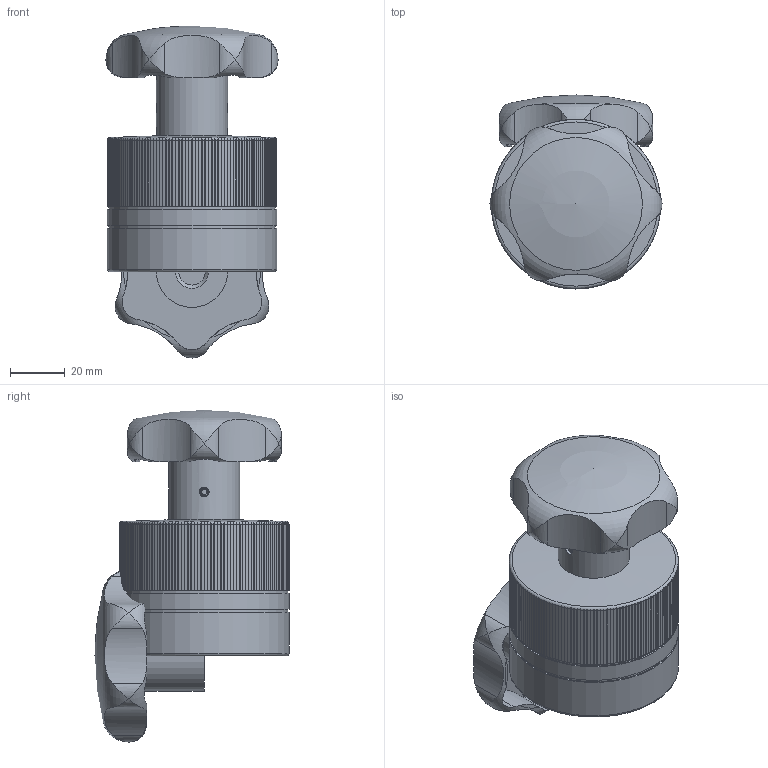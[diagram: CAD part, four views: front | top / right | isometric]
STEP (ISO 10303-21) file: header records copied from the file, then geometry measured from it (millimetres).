
FILE_DESCRIPTION( ( 'Unknown' ), '1' );
FILE_NAME( 'F:/JAKOB-STEP+IGES-Dateien/STEP-Dateien/MCA-S/MCA-S 60 - M10.stp', 'Unknown', ( 'Unknown' ), ( 'Unknown' ), 'XStep 1.0', 'Unknown', ' ' );
FILE_SCHEMA( ( 'CONFIG_CONTROL_DESIGN' ) );
Length unit declared in the file: millimetre
Products named in the file (4): Assem1; KT101372; KT102588; Gehäuse MCA-S 60 - MCA-T 60 - M10
Bounding box: 63 x 71 x 121.5 mm (x, y, z)
Volume: 346087.4 mm3; surface area: 66826.9 mm2
Topology: 6 solids, 6 shells, 786 faces, 2278 edges, 1522 vertices
Faces by surface type: cylinder 714, plane 46, cone 16, torus 8, sphere 2
Full cylindrical faces by diameter (mm): 3.5 x4, 8.5 x2, 9.6 x2, 12 x2, 22 x2, 26 x2, 61 x4, 62 x4
Entity records: 16558 total; most frequent: CARTESIAN_POINT 6011, DIRECTION 2226, ORIENTED_EDGE 2224, EDGE_CURVE 1112, AXIS2_PLACEMENT_3D 935, VERTEX_POINT 756, CIRCLE 538, EDGE_LOOP 428
